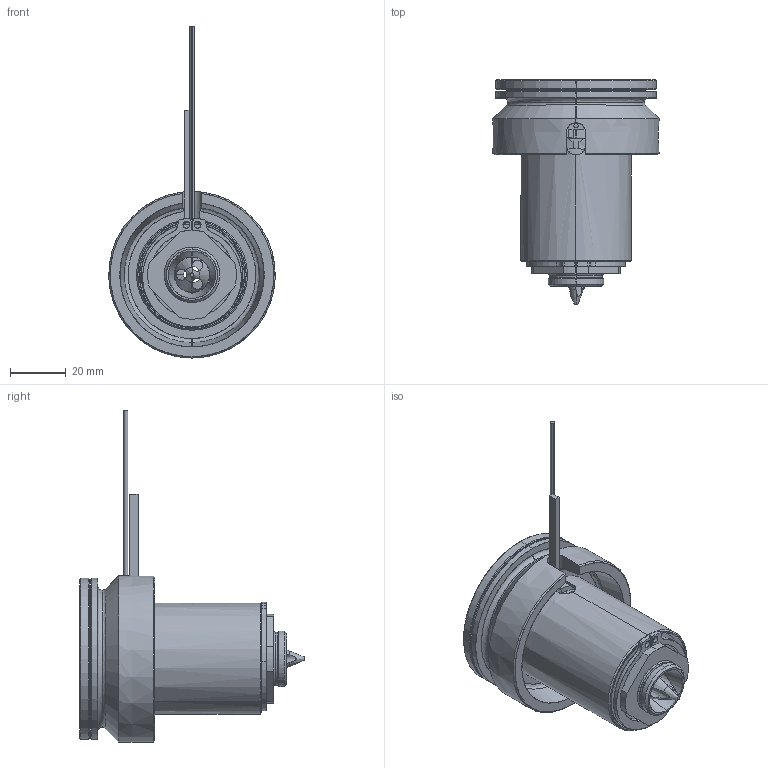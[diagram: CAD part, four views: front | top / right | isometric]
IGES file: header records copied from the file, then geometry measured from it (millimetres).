
Start section: SolidWorks IGES file using analytic representation for surfaces
Global section: file name: C:\Documents and Settings\ws-20\Desktop\TEM\UGEP6002-S-A-1 [Øf-1.3 ØC-15].IGS; native system: SolidWorks 2012; preprocessor: SolidWorks 2012; author: ws-20; date: 120427.092457; units: millimetre
Bounding box: 60 x 80.8 x 119.65 mm (x, y, z)
Surface area: 39400.9 mm2 (no closed solid volume)
Topology: 0 solids, 0 shells, 137 faces, 2755 edges, 2755 vertices
Faces by surface type: revolution 88, bspline 49
